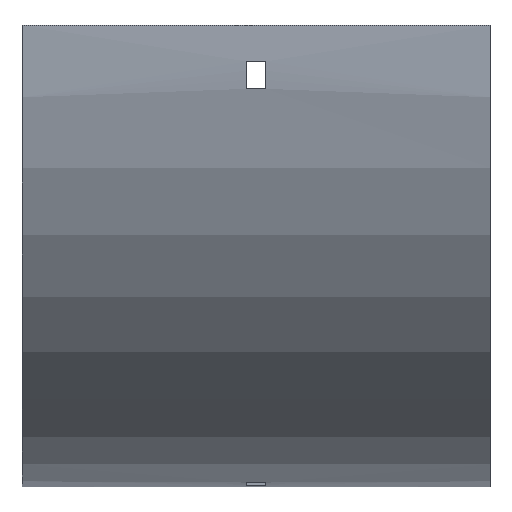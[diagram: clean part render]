
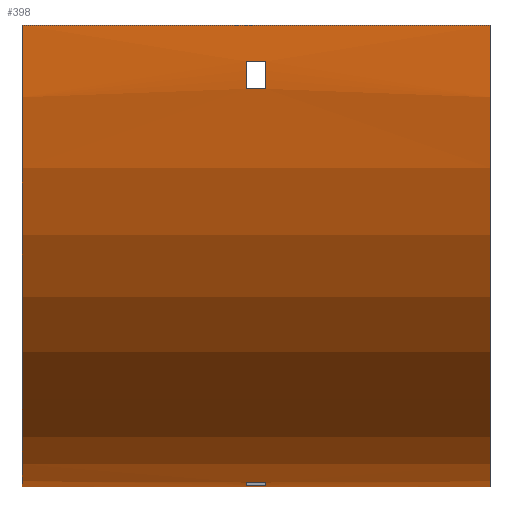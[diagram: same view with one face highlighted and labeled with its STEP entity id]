
A CAD part, front view. The second image highlights one B-rep face of the part: STEP entity #398.
In plain terms, the highlighted cylindrical face has radius 152 mm (diameter 304 mm), a partial arc.
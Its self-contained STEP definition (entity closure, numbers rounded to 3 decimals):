
#1 = ORIENTED_EDGE ( 'NONE', *, *, #205, .F. ) ;
#13 = ORIENTED_EDGE ( 'NONE', *, *, #1013, .F. ) ;
#43 = VERTEX_POINT ( 'NONE', #872 ) ;
#72 = VERTEX_POINT ( 'NONE', #138 ) ;
#83 = CIRCLE ( 'NONE', #564, 152. ) ;
#97 = DIRECTION ( 'NONE',  ( 0., 0., 1. ) ) ;
#131 = CARTESIAN_POINT ( 'NONE',  ( 3.25, -50.542, -21. ) ) ;
#138 = CARTESIAN_POINT ( 'NONE',  ( -3.25, 79., -150.542 ) ) ;
#141 = EDGE_CURVE ( 'NONE', #147, #317, #780, .T. ) ;
#143 = LINE ( 'NONE', #1134, #681 ) ;
#147 = VERTEX_POINT ( 'NONE', #444 ) ;
#158 = VECTOR ( 'NONE', #469, 1000. ) ;
#160 = CARTESIAN_POINT ( 'NONE',  ( 3.25, 79., -150.542 ) ) ;
#164 = AXIS2_PLACEMENT_3D ( 'NONE', #535, #449, #1151 ) ;
#193 = CARTESIAN_POINT ( 'NONE',  ( 3.25, 88., -151.526 ) ) ;
#196 = EDGE_CURVE ( 'NONE', #918, #1104, #202, .T. ) ;
#198 = ORIENTED_EDGE ( 'NONE', *, *, #141, .T. ) ;
#201 = CARTESIAN_POINT ( 'NONE',  ( 77., -52., 0. ) ) ;
#202 = CIRCLE ( 'NONE', #278, 152. ) ;
#205 = EDGE_CURVE ( 'NONE', #72, #311, #762, .T. ) ;
#226 = ORIENTED_EDGE ( 'NONE', *, *, #196, .T. ) ;
#230 = CIRCLE ( 'NONE', #889, 152. ) ;
#241 = CARTESIAN_POINT ( 'NONE',  ( 77., 79., -150.542 ) ) ;
#248 = EDGE_LOOP ( 'NONE', ( #506, #1136, #611, #873 ) ) ;
#273 = LINE ( 'NONE', #1057, #929 ) ;
#278 = AXIS2_PLACEMENT_3D ( 'NONE', #625, #888, #989 ) ;
#311 = VERTEX_POINT ( 'NONE', #1103 ) ;
#317 = VERTEX_POINT ( 'NONE', #131 ) ;
#337 = DIRECTION ( 'NONE',  ( 1., 0., 0. ) ) ;
#398 = ADVANCED_FACE ( 'NONE', ( #851, #764, #1041 ), #1113, .T. ) ;
#406 = VECTOR ( 'NONE', #337, 1000. ) ;
#431 = ORIENTED_EDGE ( 'NONE', *, *, #433, .F. ) ;
#433 = EDGE_CURVE ( 'NONE', #311, #978, #511, .T. ) ;
#438 = DIRECTION ( 'NONE',  ( 1., 0., 0. ) ) ;
#440 = CIRCLE ( 'NONE', #736, 152. ) ;
#444 = CARTESIAN_POINT ( 'NONE',  ( 3.25, -51.526, -12. ) ) ;
#447 = CARTESIAN_POINT ( 'NONE',  ( -3.25, -50.542, -21. ) ) ;
#449 = DIRECTION ( 'NONE',  ( 1., 0., 0. ) ) ;
#454 = EDGE_CURVE ( 'NONE', #964, #72, #602, .T. ) ;
#464 = CARTESIAN_POINT ( 'NONE',  ( 3.25, 100., 0. ) ) ;
#469 = DIRECTION ( 'NONE',  ( -1., 0., 0. ) ) ;
#473 = DIRECTION ( 'NONE',  ( 0., 1., 0. ) ) ;
#479 = EDGE_CURVE ( 'NONE', #317, #918, #273, .T. ) ;
#488 = VERTEX_POINT ( 'NONE', #716 ) ;
#498 = DIRECTION ( 'NONE',  ( 1., 0., 0. ) ) ;
#500 = DIRECTION ( 'NONE',  ( 0., 0., 1. ) ) ;
#506 = ORIENTED_EDGE ( 'NONE', *, *, #1043, .T. ) ;
#508 = ORIENTED_EDGE ( 'NONE', *, *, #720, .T. ) ;
#511 = LINE ( 'NONE', #768, #406 ) ;
#535 = CARTESIAN_POINT ( 'NONE',  ( 3.25, 100., 0. ) ) ;
#546 = DIRECTION ( 'NONE',  ( -1., 0., 0. ) ) ;
#552 = AXIS2_PLACEMENT_3D ( 'NONE', #783, #670, #500 ) ;
#553 = CARTESIAN_POINT ( 'NONE',  ( -3.25, -51.526, -12. ) ) ;
#558 = DIRECTION ( 'NONE',  ( 1., 0., 0. ) ) ;
#564 = AXIS2_PLACEMENT_3D ( 'NONE', #1139, #707, #969 ) ;
#596 = DIRECTION ( 'NONE',  ( -1., 0., 0. ) ) ;
#602 = LINE ( 'NONE', #241, #743 ) ;
#611 = ORIENTED_EDGE ( 'NONE', *, *, #904, .F. ) ;
#625 = CARTESIAN_POINT ( 'NONE',  ( -3.25, 100., 0. ) ) ;
#649 = DIRECTION ( 'NONE',  ( -1., 0., 0. ) ) ;
#670 = DIRECTION ( 'NONE',  ( -1., 0., 0. ) ) ;
#681 = VECTOR ( 'NONE', #498, 1000. ) ;
#707 = DIRECTION ( 'NONE',  ( 1., 0., 0. ) ) ;
#716 = CARTESIAN_POINT ( 'NONE',  ( 77., 100., -152. ) ) ;
#720 = EDGE_CURVE ( 'NONE', #1104, #147, #143, .T. ) ;
#726 = CARTESIAN_POINT ( 'NONE',  ( -77., 100., 0. ) ) ;
#736 = AXIS2_PLACEMENT_3D ( 'NONE', #464, #546, #97 ) ;
#743 = VECTOR ( 'NONE', #596, 1000. ) ;
#762 = CIRCLE ( 'NONE', #1096, 152. ) ;
#764 = FACE_BOUND ( 'NONE', #1109, .T. ) ;
#768 = CARTESIAN_POINT ( 'NONE',  ( 77., 88., -151.526 ) ) ;
#780 = CIRCLE ( 'NONE', #164, 152. ) ;
#783 = CARTESIAN_POINT ( 'NONE',  ( 77., 100., 0. ) ) ;
#788 = CARTESIAN_POINT ( 'NONE',  ( -77., 100., -152. ) ) ;
#806 = EDGE_LOOP ( 'NONE', ( #1, #844, #13, #431 ) ) ;
#814 = CARTESIAN_POINT ( 'NONE',  ( -3.25, 100., 0. ) ) ;
#841 = CARTESIAN_POINT ( 'NONE',  ( -77., -52., 0. ) ) ;
#844 = ORIENTED_EDGE ( 'NONE', *, *, #454, .F. ) ;
#851 = FACE_OUTER_BOUND ( 'NONE', #248, .T. ) ;
#872 = CARTESIAN_POINT ( 'NONE',  ( 77., -52., 0. ) ) ;
#873 = ORIENTED_EDGE ( 'NONE', *, *, #1090, .T. ) ;
#888 = DIRECTION ( 'NONE',  ( -1., 0., 0. ) ) ;
#889 = AXIS2_PLACEMENT_3D ( 'NONE', #726, #558, #921 ) ;
#904 = EDGE_CURVE ( 'NONE', #43, #488, #83, .T. ) ;
#918 = VERTEX_POINT ( 'NONE', #447 ) ;
#921 = DIRECTION ( 'NONE',  ( 0., 0., -1. ) ) ;
#929 = VECTOR ( 'NONE', #1081, 1000. ) ;
#964 = VERTEX_POINT ( 'NONE', #160 ) ;
#966 = VERTEX_POINT ( 'NONE', #788 ) ;
#969 = DIRECTION ( 'NONE',  ( 0., 0., -1. ) ) ;
#978 = VERTEX_POINT ( 'NONE', #193 ) ;
#989 = DIRECTION ( 'NONE',  ( 0., 0., 1. ) ) ;
#998 = LINE ( 'NONE', #1088, #158 ) ;
#1000 = EDGE_CURVE ( 'NONE', #488, #966, #998, .T. ) ;
#1004 = LINE ( 'NONE', #201, #1111 ) ;
#1013 = EDGE_CURVE ( 'NONE', #978, #964, #440, .T. ) ;
#1041 = FACE_BOUND ( 'NONE', #806, .T. ) ;
#1043 = EDGE_CURVE ( 'NONE', #1059, #966, #230, .T. ) ;
#1057 = CARTESIAN_POINT ( 'NONE',  ( 77., -50.542, -21. ) ) ;
#1059 = VERTEX_POINT ( 'NONE', #841 ) ;
#1081 = DIRECTION ( 'NONE',  ( -1., 0., 0. ) ) ;
#1083 = ORIENTED_EDGE ( 'NONE', *, *, #479, .T. ) ;
#1088 = CARTESIAN_POINT ( 'NONE',  ( 77., 100., -152. ) ) ;
#1090 = EDGE_CURVE ( 'NONE', #43, #1059, #1004, .T. ) ;
#1096 = AXIS2_PLACEMENT_3D ( 'NONE', #814, #438, #473 ) ;
#1103 = CARTESIAN_POINT ( 'NONE',  ( -3.25, 88., -151.526 ) ) ;
#1104 = VERTEX_POINT ( 'NONE', #553 ) ;
#1109 = EDGE_LOOP ( 'NONE', ( #1083, #226, #508, #198 ) ) ;
#1111 = VECTOR ( 'NONE', #649, 1000. ) ;
#1113 = CYLINDRICAL_SURFACE ( 'NONE', #552, 152. ) ;
#1134 = CARTESIAN_POINT ( 'NONE',  ( 77., -51.526, -12. ) ) ;
#1136 = ORIENTED_EDGE ( 'NONE', *, *, #1000, .F. ) ;
#1139 = CARTESIAN_POINT ( 'NONE',  ( 77., 100., 0. ) ) ;
#1151 = DIRECTION ( 'NONE',  ( 0., 0., -1. ) ) ;
